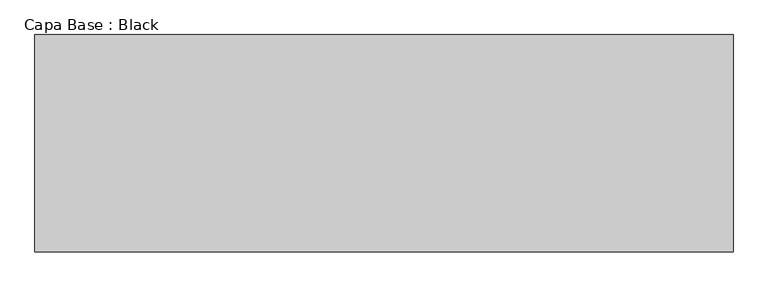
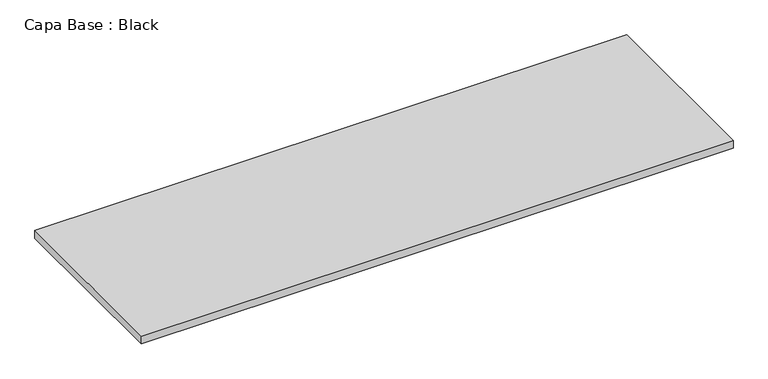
"""IFC4 building model written with IfcOpenShell, lengths in millimetres: furniture geometry, Capa Base : Black."""

from ifc_helpers import new_model, si_unit, origin, origin_with_axes, place, context, project, spatial, polyline, outline, extrude, source, transform, mapped, element, save


def capa_base_black_5718d9b1(model_context):
    return source(origin(), model_context, "Body", "SweptSolid", [
        extrude(outline(polyline([(-800.0, -498.0), (-800.0, 0.0), (800.0, 0.0), (800.0, -498.0), (-800.0, -498.0)])), origin_with_axes(), (0.0, 0.0, 1.0), 22.0),
    ])


if __name__ == "__main__":
    model = new_model("IFC4")
    model_context = context("Model", 3, world=origin())
    ifc_project = project(units=[si_unit("LENGTHUNIT", "METRE", prefix="MILLI")], contexts=[model_context])
    site = spatial("IfcSite", under=ifc_project)
    building = spatial("IfcBuilding", under=site)
    placement = place(None, origin())
    capa_base_black_shape = capa_base_black_5718d9b1(model_context)
    element("IfcFurniture", 1, ObjectType="Capa Base : Black", at=placement, inside=building, context=model_context, shape_type="MappedRepresentation", body=[
        mapped(capa_base_black_shape, transform((0.0, 0.0, 0.0), x_axis=(1.0, 0.0, 0.0), y_axis=(0.0, 1.0, 0.0), z_axis=(0.0, 0.0, 1.0))),
    ])
    save(model, "model.ifc")
